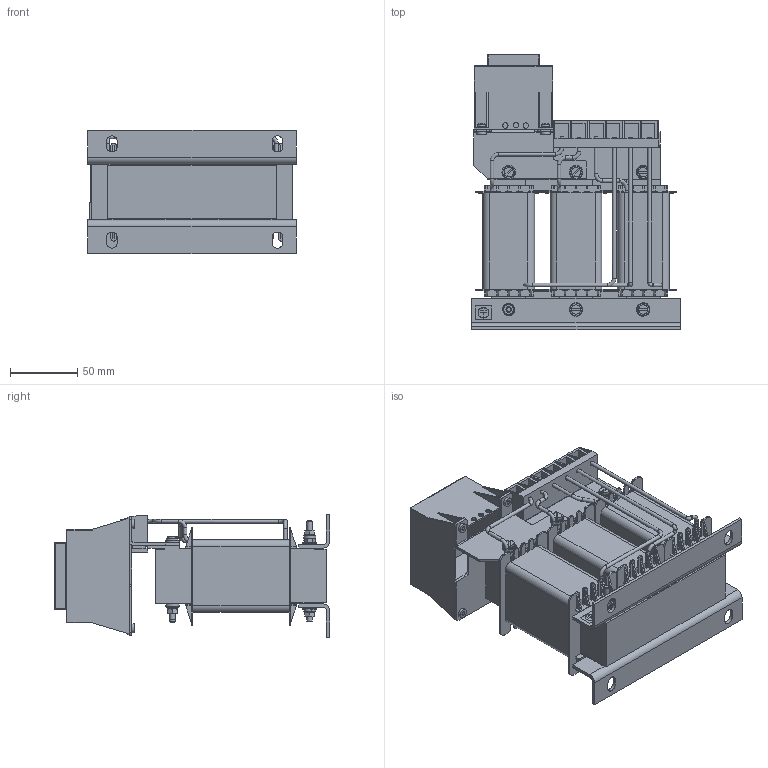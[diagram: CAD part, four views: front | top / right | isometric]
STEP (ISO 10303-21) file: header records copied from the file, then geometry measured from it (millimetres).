
FILE_DESCRIPTION((''),'2;1');
FILE_NAME('C:\Users\Samuel.Meier\Desktop\STEPPS\FN5040-10-83.stp','2016-04-25T17:45:24',('samuel.meier'),(''),'Autodesk Inventor 2013','Autodesk Inventor 2013','');
FILE_SCHEMA(('CONFIG_CONTROL_DESIGN'));
Length unit declared in the file: millimetre
Products named in the file (1): Bauteil18
Bounding box: 155 x 204.8 x 91.5 mm (x, y, z)
Volume: 833701.3 mm3; surface area: 285892.4 mm2
Topology: 1 solids, 1 shells, 1924 faces, 5121 edges, 3244 vertices
Faces by surface type: plane 1339, cylinder 388, torus 105, bspline 52, cone 28, sphere 12
Full cylindrical faces by diameter (mm): 2.7 x27, 3 x11, 3.2 x4, 4 x16, 4.1 x10, 4.2 x4, 4.3 x13, 5.2 x10, 5.5 x9, 5.8 x6, 6 x16, 6.9 x4, 7 x6, 7.9 x1, 8 x1, 9 x13, 10 x10
Entity records: 61454 total; most frequent: CARTESIAN_POINT 12841, ORIENTED_EDGE 9690, DIRECTION 9333, EDGE_CURVE 4845, VECTOR 3461, LINE 3461, VERTEX_POINT 3182, AXIS2_PLACEMENT_3D 2936
